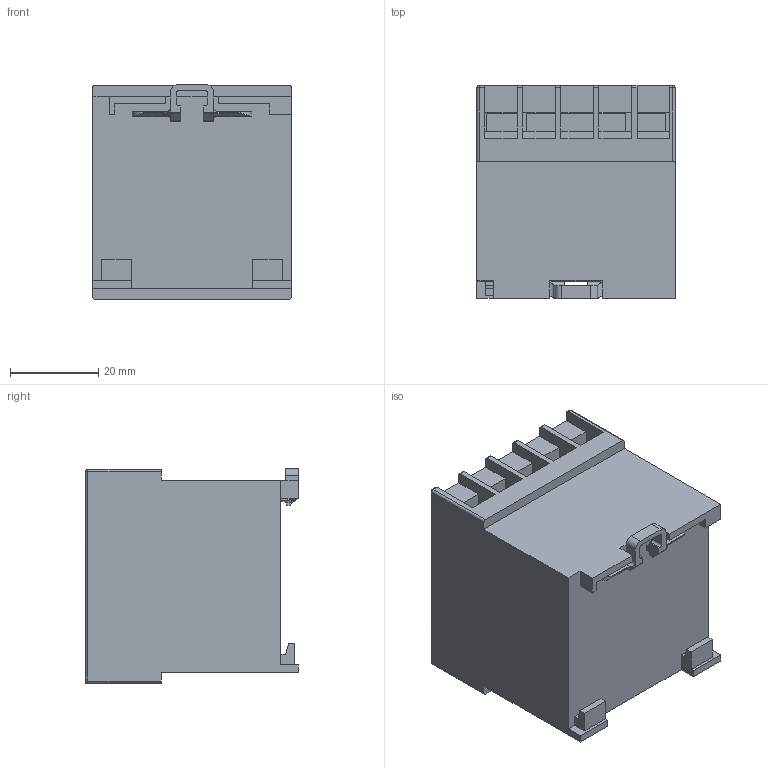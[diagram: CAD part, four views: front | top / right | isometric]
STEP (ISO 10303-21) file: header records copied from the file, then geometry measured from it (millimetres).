
FILE_DESCRIPTION (( 'STEP AP203' ), '1' );
FILE_NAME ('K1-..DX016.STEP', '2014-03-10T14:10:10', ( '' ), ( '' ), 'SwSTEP 2.0', 'SolidWorks 2014', '' );
FILE_SCHEMA (( 'CONFIG_CONTROL_DESIGN' ));
Length unit declared in the file: millimetre
Products named in the file (1): K1-..DX016
Bounding box: 45 x 48.27 x 48.65 mm (x, y, z)
Volume: 84269.4 mm3; surface area: 16539.5 mm2
Topology: 1 solids, 1 shells, 226 faces, 675 edges, 443 vertices
Faces by surface type: plane 165, cylinder 56, bspline 5
Entity records: 7859 total; most frequent: CARTESIAN_POINT 1684, ORIENTED_EDGE 1346, DIRECTION 1185, EDGE_CURVE 673, LINE 537, VECTOR 537, VERTEX_POINT 443, AXIS2_PLACEMENT_3D 324
